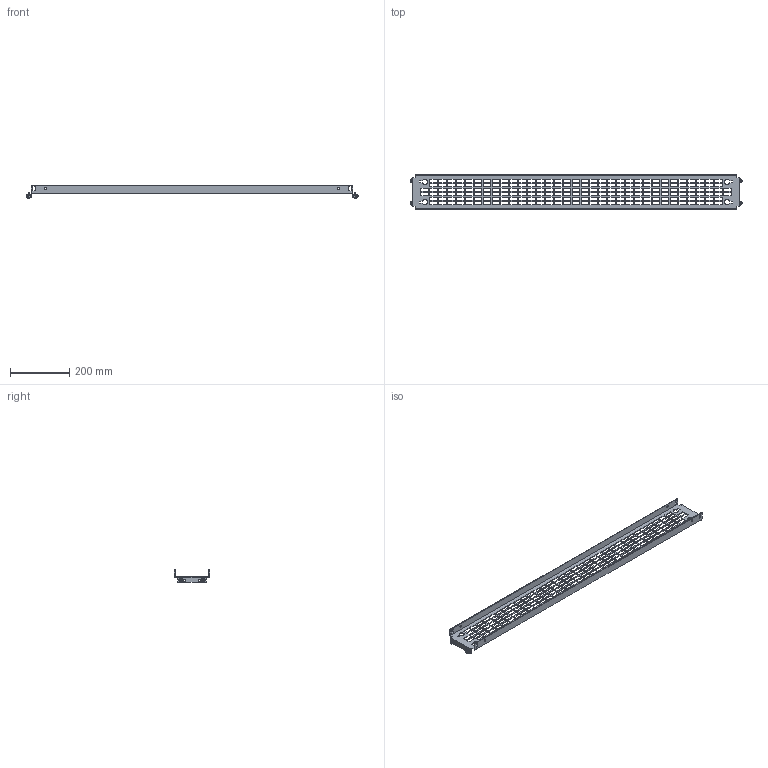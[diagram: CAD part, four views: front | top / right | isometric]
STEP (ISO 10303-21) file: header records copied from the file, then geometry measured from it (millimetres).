
FILE_DESCRIPTION(('Open CASCADE Model'),'2;1');
FILE_NAME('Open CASCADE Shape Model','2025-02-19T16:48:24',('Author'),( 'Open CASCADE'),'Open CASCADE STEP processor 7.8','Open CASCADE 7.8' ,'Unknown');
FILE_SCHEMA(('AUTOMOTIVE_DESIGN { 1 0 10303 214 1 1 1 1 }'));
Length unit declared in the file: millimetre
Products named in the file (4): Compound1; Solid1; Solid2; Solid3
Assembly tree (9 placements, depth 2):
  Compound1
    Solid1
    Solid2  x4
    Solid3  x4
Bounding box: 1119 x 119 x 42.59 mm (x, y, z)
Volume: 317532.3 mm3; surface area: 300083.4 mm2
Topology: 9 solids, 9 shells, 1161 faces, 3290 edges, 2158 vertices
Faces by surface type: plane 990, cone 68, bspline 63, cylinder 28, torus 12
Full cylindrical faces by diameter (mm): 5 x4, 6 x8, 7 x12
Entity records: 34924 total; most frequent: CARTESIAN_POINT 7453, ORIENTED_EDGE 5902, DIRECTION 4882, EDGE_CURVE 2951, LINE 2770, VECTOR 2770, VERTEX_POINT 1960, FACE_BOUND 1459
